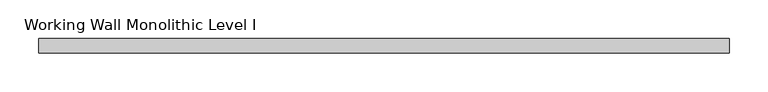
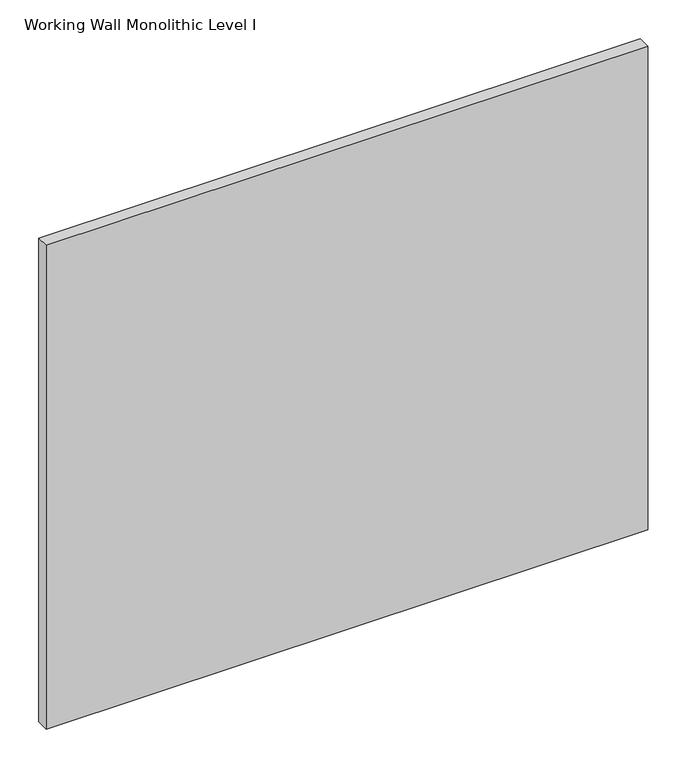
"""IFC4 building model written with IfcOpenShell, lengths in millimetres: proxy geometry, Panel-Fascia-Teknion-Altos-Standard : Working Wall Monolithic Level I."""

from ifc_helpers import new_model, si_unit, frame, origin, place, context, project, spatial, polyline, outline, extrude, source, transform, mapped, element, save


def working_wall_monolithic_level_i_c6955959(model_context):
    return source(origin(), model_context, "Body", "SweptSolid", [
        extrude(outline(polyline([(447.0300781, 9.525), (447.0300781, -9.525), (-447.0300781, -9.525), (-447.0300781, 9.525), (447.0300781, 9.525)])), frame((0.0, 0.0, 3.175), z_axis=(0.0, 0.0, 1.0), x_axis=(1.0, 0.0, 0.0)), (0.0, 0.0, 1.0), 759.968),
    ])


if __name__ == "__main__":
    model = new_model("IFC4")
    model_context = context("Model", 3, world=origin())
    ifc_project = project(units=[si_unit("LENGTHUNIT", "METRE", prefix="MILLI")], contexts=[model_context])
    site = spatial("IfcSite", under=ifc_project)
    building = spatial("IfcBuilding", under=site)
    placement = place(None, origin())
    working_wall_monolithic_level_i_shape = working_wall_monolithic_level_i_c6955959(model_context)
    element("IfcBuildingElementProxy", 1, Name="Panel-Fascia-Teknion-Altos-Standard : Working Wall Monolithic Level I", ObjectType="Panel-Fascia-Teknion-Altos-Standard : Working Wall Monolithic Level I", at=placement, inside=building, context=model_context, shape_type="MappedRepresentation", body=[
        mapped(working_wall_monolithic_level_i_shape, transform((0.0, 0.0, 0.0), x_axis=(1.0, 0.0, 0.0), y_axis=(0.0, 1.0, 0.0), z_axis=(0.0, 0.0, 1.0))),
    ])
    save(model, "model.ifc")
